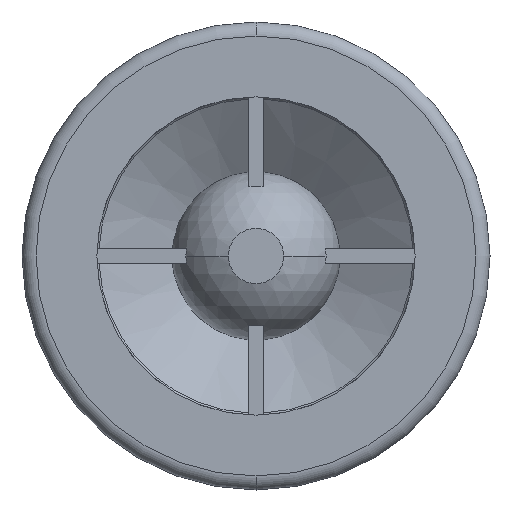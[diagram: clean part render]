
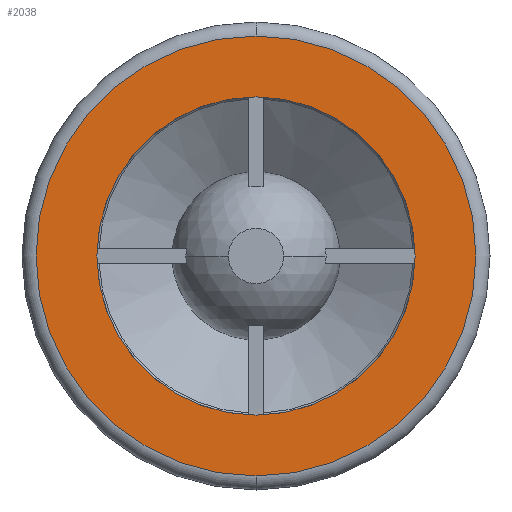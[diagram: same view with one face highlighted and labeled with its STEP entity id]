
A CAD part, front view. The second image highlights one B-rep face of the part: STEP entity #2038.
In plain terms, the highlighted planar face has unit normal (0, -1, 0).
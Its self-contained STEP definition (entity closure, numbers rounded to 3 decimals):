
#585 = VERTEX_POINT ( 'NONE', #2335 ) ;
#586 = VERTEX_POINT ( 'NONE', #2334 ) ;
#590 = EDGE_CURVE ( 'NONE', #585, #586, #2333, .T. ) ;
#944 = EDGE_CURVE ( 'NONE', #5028, #5035, #2950, .T. ) ;
#1921 = EDGE_LOOP ( 'NONE', ( #1995, #3461 ) ) ;
#1995 = ORIENTED_EDGE ( 'NONE', *, *, #2010, .T. ) ;
#2010 = EDGE_CURVE ( 'NONE', #586, #585, #3700, .T. ) ;
#2038 = ADVANCED_FACE ( 'NONE', ( #3695, #3694 ), #3693, .F. ) ;
#2329 = DIRECTION ( 'NONE',  ( 0., 0., 1. ) ) ;
#2330 = DIRECTION ( 'NONE',  ( 0., -1., 0. ) ) ;
#2331 = CARTESIAN_POINT ( 'NONE',  ( 0., 0., 0. ) ) ;
#2332 = AXIS2_PLACEMENT_3D ( 'NONE', #2331, #2330, #2329 ) ;
#2333 = CIRCLE ( 'NONE', #2332, 23.5 ) ;
#2334 = CARTESIAN_POINT ( 'NONE',  ( 0., 0., 23.5 ) ) ;
#2335 = CARTESIAN_POINT ( 'NONE',  ( 0., 0., -23.5 ) ) ;
#2946 = DIRECTION ( 'NONE',  ( 0., 0., -1. ) ) ;
#2947 = DIRECTION ( 'NONE',  ( 0., -1., 0. ) ) ;
#2948 = CARTESIAN_POINT ( 'NONE',  ( 0., 0., 0. ) ) ;
#2949 = AXIS2_PLACEMENT_3D ( 'NONE', #2948, #2947, #2946 ) ;
#2950 = CIRCLE ( 'NONE', #2949, 17. ) ;
#3395 = ORIENTED_EDGE ( 'NONE', *, *, #944, .F. ) ;
#3423 = ORIENTED_EDGE ( 'NONE', *, *, #5031, .F. ) ;
#3461 = ORIENTED_EDGE ( 'NONE', *, *, #590, .T. ) ;
#3479 = EDGE_LOOP ( 'NONE', ( #3395, #3423 ) ) ;
#3689 = DIRECTION ( 'NONE',  ( 0., 0., 1. ) ) ;
#3690 = DIRECTION ( 'NONE',  ( 0., 1., 0. ) ) ;
#3691 = CARTESIAN_POINT ( 'NONE',  ( -17., 0., 0. ) ) ;
#3692 = AXIS2_PLACEMENT_3D ( 'NONE', #3691, #3690, #3689 ) ;
#3693 = PLANE ( 'NONE',  #3692 ) ;
#3694 = FACE_BOUND ( 'NONE', #3479, .T. ) ;
#3695 = FACE_OUTER_BOUND ( 'NONE', #1921, .T. ) ;
#3696 = DIRECTION ( 'NONE',  ( 0., 0., 1. ) ) ;
#3697 = DIRECTION ( 'NONE',  ( 0., -1., 0. ) ) ;
#3698 = CARTESIAN_POINT ( 'NONE',  ( 0., 0., 0. ) ) ;
#3699 = AXIS2_PLACEMENT_3D ( 'NONE', #3698, #3697, #3696 ) ;
#3700 = CIRCLE ( 'NONE', #3699, 23.5 ) ;
#3984 = CARTESIAN_POINT ( 'NONE',  ( 0., 0., 17. ) ) ;
#3990 = DIRECTION ( 'NONE',  ( 0., 0., -1. ) ) ;
#3991 = DIRECTION ( 'NONE',  ( 0., -1., 0. ) ) ;
#3992 = CARTESIAN_POINT ( 'NONE',  ( 0., 0., 0. ) ) ;
#3993 = AXIS2_PLACEMENT_3D ( 'NONE', #3992, #3991, #3990 ) ;
#3994 = CIRCLE ( 'NONE', #3993, 17. ) ;
#3995 = CARTESIAN_POINT ( 'NONE',  ( 0., 0., -17. ) ) ;
#5028 = VERTEX_POINT ( 'NONE', #3995 ) ;
#5031 = EDGE_CURVE ( 'NONE', #5035, #5028, #3994, .T. ) ;
#5035 = VERTEX_POINT ( 'NONE', #3984 ) ;
